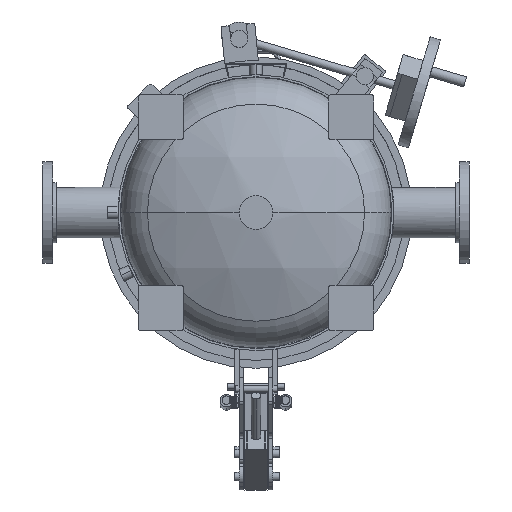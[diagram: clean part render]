
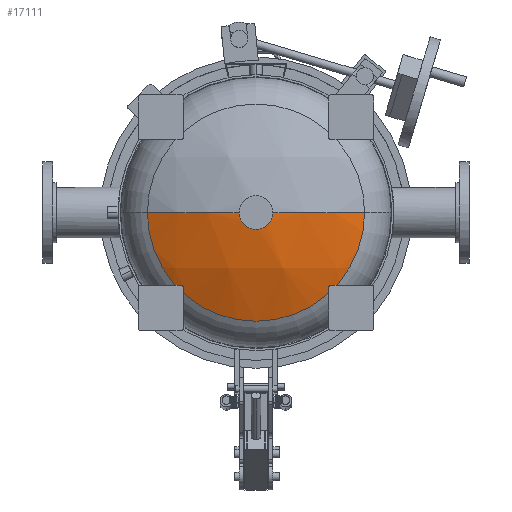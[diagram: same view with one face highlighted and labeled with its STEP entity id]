
A CAD part, front view. The second image highlights one B-rep face of the part: STEP entity #17111.
In plain terms, the highlighted spherical face has radius 547.53 mm.
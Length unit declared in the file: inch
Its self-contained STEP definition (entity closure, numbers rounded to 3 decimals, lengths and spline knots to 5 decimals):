
#189 = DIRECTION ( 'NONE',  ( 0., 0., 1. ) ) ;
#1723 = DIRECTION ( 'NONE',  ( 0., 0., -1. ) ) ;
#1726 = VERTEX_POINT ( 'NONE', #23881 ) ;
#2020 = EDGE_CURVE ( 'NONE', #1726, #16575, #13173, .T. ) ;
#2123 = CARTESIAN_POINT ( 'NONE',  ( 0., -36.09192, 0. ) ) ;
#2177 = VERTEX_POINT ( 'NONE', #14816 ) ;
#3310 = DIRECTION ( 'NONE',  ( 0., 0., 1. ) ) ;
#3718 = DIRECTION ( 'NONE',  ( -1., 0., 0. ) ) ;
#3813 = CARTESIAN_POINT ( 'NONE',  ( 0., -38.31585, 0. ) ) ;
#4278 = CARTESIAN_POINT ( 'NONE',  ( 0., -16.81179, 0. ) ) ;
#5008 = CIRCLE ( 'NONE', #14185, 1.5 ) ;
#5120 = AXIS2_PLACEMENT_3D ( 'NONE', #3813, #18933, #189 ) ;
#5636 = AXIS2_PLACEMENT_3D ( 'NONE', #2123, #9743, #17364 ) ;
#6379 = DIRECTION ( 'NONE',  ( 0., 0., -1. ) ) ;
#6730 = DIRECTION ( 'NONE',  ( 1., 0., 0. ) ) ;
#7561 = ORIENTED_EDGE ( 'NONE', *, *, #20435, .T. ) ;
#8782 = AXIS2_PLACEMENT_3D ( 'NONE', #4278, #6379, #15773 ) ;
#8786 = AXIS2_PLACEMENT_3D ( 'NONE', #19071, #1723, #3718 ) ;
#9388 = ORIENTED_EDGE ( 'NONE', *, *, #2020, .T. ) ;
#9743 = DIRECTION ( 'NONE',  ( 0., -1., 0. ) ) ;
#9960 = EDGE_CURVE ( 'NONE', #13153, #2177, #19776, .T. ) ;
#11733 = EDGE_CURVE ( 'NONE', #21206, #16575, #5008, .T. ) ;
#12794 = CARTESIAN_POINT ( 'NONE',  ( 0., -38.31585, 0. ) ) ;
#13153 = VERTEX_POINT ( 'NONE', #13467 ) ;
#13173 = CIRCLE ( 'NONE', #8786, 21.55631 ) ;
#13467 = CARTESIAN_POINT ( 'NONE',  ( -9.64113, -36.09192, 0. ) ) ;
#13704 = ORIENTED_EDGE ( 'NONE', *, *, #15583, .F. ) ;
#14185 = AXIS2_PLACEMENT_3D ( 'NONE', #12794, #20412, #3310 ) ;
#14816 = CARTESIAN_POINT ( 'NONE',  ( -1.5, -38.31585, 0. ) ) ;
#14992 = ORIENTED_EDGE ( 'NONE', *, *, #11733, .F. ) ;
#15583 = EDGE_CURVE ( 'NONE', #2177, #21206, #21854, .T. ) ;
#15773 = DIRECTION ( 'NONE',  ( -1., 0., 0. ) ) ;
#16575 = VERTEX_POINT ( 'NONE', #19961 ) ;
#16818 = CARTESIAN_POINT ( 'NONE',  ( 0., -38.31585, -1.5 ) ) ;
#17111 = ADVANCED_FACE ( 'NONE', ( #18907 ), #19630, .T. ) ;
#17364 = DIRECTION ( 'NONE',  ( 1., 0., 0. ) ) ;
#17403 = AXIS2_PLACEMENT_3D ( 'NONE', #20352, #23843, #6730 ) ;
#17994 = CIRCLE ( 'NONE', #5636, 9.64113 ) ;
#18907 = FACE_OUTER_BOUND ( 'NONE', #23818, .T. ) ;
#18933 = DIRECTION ( 'NONE',  ( 0., -1., 0. ) ) ;
#19071 = CARTESIAN_POINT ( 'NONE',  ( 0., -16.81179, 0. ) ) ;
#19630 = SPHERICAL_SURFACE ( 'NONE', #8782, 21.55631 ) ;
#19776 = CIRCLE ( 'NONE', #17403, 21.55631 ) ;
#19961 = CARTESIAN_POINT ( 'NONE',  ( 1.5, -38.31585, 0. ) ) ;
#20128 = ORIENTED_EDGE ( 'NONE', *, *, #9960, .F. ) ;
#20352 = CARTESIAN_POINT ( 'NONE',  ( 0., -16.81179, 0. ) ) ;
#20412 = DIRECTION ( 'NONE',  ( 0., -1., 0. ) ) ;
#20435 = EDGE_CURVE ( 'NONE', #13153, #1726, #17994, .T. ) ;
#21206 = VERTEX_POINT ( 'NONE', #16818 ) ;
#21854 = CIRCLE ( 'NONE', #5120, 1.5 ) ;
#23818 = EDGE_LOOP ( 'NONE', ( #7561, #9388, #14992, #13704, #20128 ) ) ;
#23843 = DIRECTION ( 'NONE',  ( 0., 0., 1. ) ) ;
#23881 = CARTESIAN_POINT ( 'NONE',  ( 9.64113, -36.09192, 0. ) ) ;
